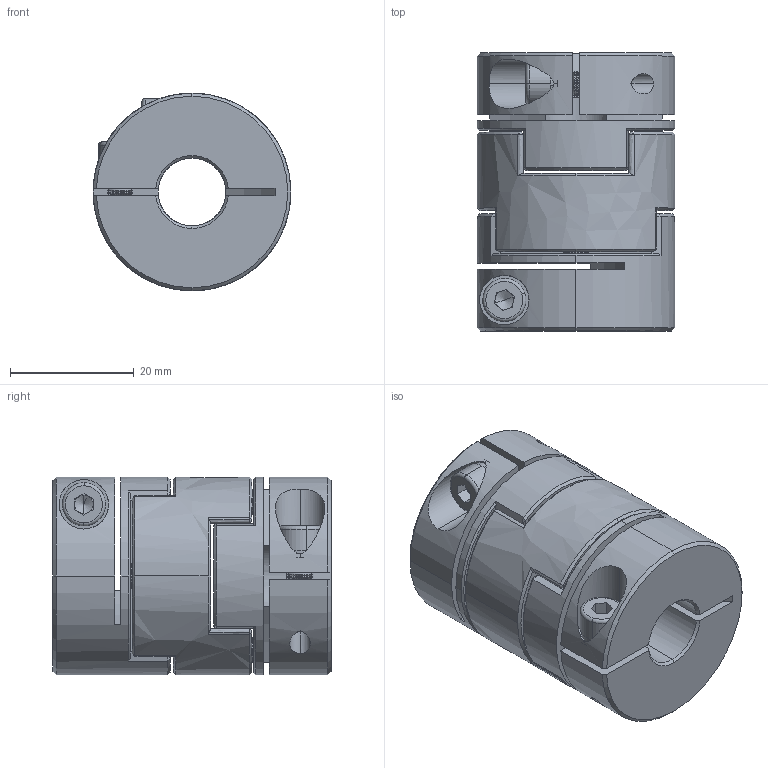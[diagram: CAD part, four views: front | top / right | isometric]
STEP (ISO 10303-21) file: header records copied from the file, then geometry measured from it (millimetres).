
FILE_DESCRIPTION (( 'STEP AP203' ), '1' );
FILE_NAME ('LZ-B-D32L45-11-11.STEP', '2021-10-29T06:46:13', ( '' ), ( '' ), 'SwSTEP 2.0', 'SolidWorks 2018', '' );
FILE_SCHEMA (( 'CONFIG_CONTROL_DESIGN' ));
Length unit declared in the file: millimetre
Products named in the file (1): LZ-B-D32L45-11-11
Bounding box: 32 x 45 x 32 mm (x, y, z)
Volume: 28761.6 mm3; surface area: 13167.1 mm2
Topology: 1 solids, 1 shells, 356 faces, 856 edges, 498 vertices
Faces by surface type: cone 118, cylinder 92, plane 84, bspline 54, torus 8
Entity records: 11145 total; most frequent: CARTESIAN_POINT 3197, ORIENTED_EDGE 1704, DIRECTION 1578, EDGE_CURVE 852, AXIS2_PLACEMENT_3D 619, VERTEX_POINT 498, EDGE_LOOP 382, FACE_OUTER_BOUND 356
